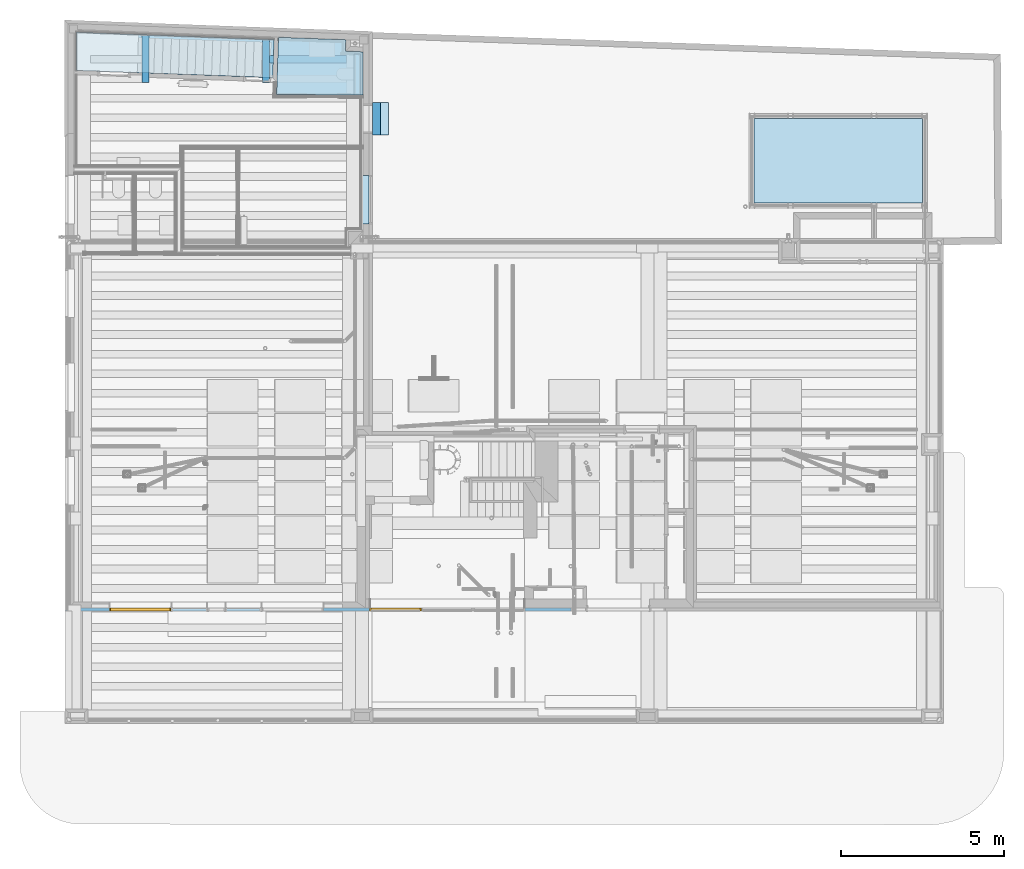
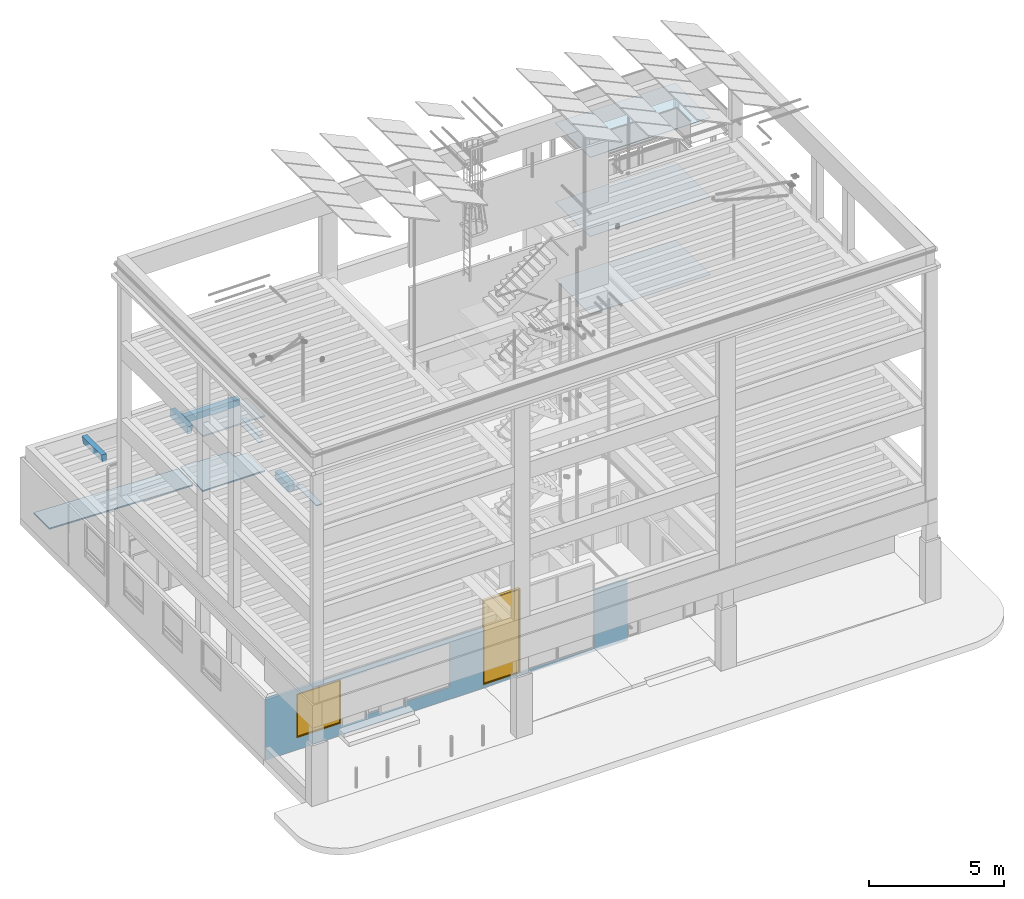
# One storey, part 21 of 106: 17 slabs, 2 windows, 2 openings, plus 2 elements that do not belong to this part.
"""IFC2X3 building model written with IfcOpenShell, lengths in metres."""

from ifc_helpers import new_model, entity, si_unit, converted_unit, derived_unit, money_unit, direction, frame, frame_2d, origin_with_axes, place, context, subcontext, project, spatial, polyline, rectangle, outline, extrude, faceted_brep, material, layer, layer_set, layer_usage, type_object, element, fill, save


model = new_model("IFC2X3")

# Units and contexts
model_context = context("Model", 3, precision=1e-05, world=origin_with_axes(), true_north=direction((0.0, 1.0)))
body_context = subcontext(model_context, "Body", "Model", "MODEL_VIEW", scale=1.0)
ifc_project = project(units=[si_unit("LENGTHUNIT", "METRE"), si_unit("AREAUNIT", "SQUARE_METRE"), si_unit("VOLUMEUNIT", "CUBIC_METRE"), si_unit("ABSORBEDDOSEUNIT", "GRAY"), si_unit("AMOUNTOFSUBSTANCEUNIT", "MOLE"), si_unit("DOSEEQUIVALENTUNIT", "SIEVERT"), si_unit("ELECTRICCAPACITANCEUNIT", "FARAD"), si_unit("ELECTRICCHARGEUNIT", "COULOMB"), si_unit("ELECTRICCONDUCTANCEUNIT", "SIEMENS"), si_unit("ELECTRICCURRENTUNIT", "AMPERE"), si_unit("ELECTRICRESISTANCEUNIT", "OHM"), si_unit("ELECTRICVOLTAGEUNIT", "VOLT"), si_unit("ENERGYUNIT", "JOULE"), si_unit("FORCEUNIT", "NEWTON"), si_unit("FREQUENCYUNIT", "HERTZ"), si_unit("ILLUMINANCEUNIT", "LUX"), si_unit("INDUCTANCEUNIT", "HENRY"), si_unit("LUMINOUSFLUXUNIT", "LUMEN"), si_unit("LUMINOUSINTENSITYUNIT", "CANDELA"), si_unit("MAGNETICFLUXDENSITYUNIT", "TESLA"), si_unit("MAGNETICFLUXUNIT", "WEBER"), si_unit("MASSUNIT", "GRAM"), converted_unit("PLANEANGLEUNIT", "degree", entity("IfcReal", 0.0174532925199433), si_unit("PLANEANGLEUNIT", "RADIAN"), dimensions=[0, 0, 0, 0, 0, 0, 0]), si_unit("POWERUNIT", "WATT"), si_unit("PRESSUREUNIT", "PASCAL"), si_unit("RADIOACTIVITYUNIT", "BECQUEREL"), si_unit("SOLIDANGLEUNIT", "STERADIAN"), si_unit("THERMODYNAMICTEMPERATUREUNIT", "KELVIN"), si_unit("TIMEUNIT", "SECOND"), derived_unit("ACCELERATIONUNIT", [(si_unit("LENGTHUNIT", "METRE"), 1), (si_unit("TIMEUNIT", "SECOND"), -2)]), derived_unit("ANGULARVELOCITYUNIT", [(converted_unit("PLANEANGLEUNIT", "degree", entity("IfcReal", 0.0174532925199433), si_unit("PLANEANGLEUNIT", "RADIAN"), dimensions=[0, 0, 0, 0, 0, 0, 0]), 1), (si_unit("TIMEUNIT", "SECOND"), -1)]), derived_unit("CURVATUREUNIT", [(converted_unit("PLANEANGLEUNIT", "degree", entity("IfcReal", 0.0174532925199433), si_unit("PLANEANGLEUNIT", "RADIAN"), dimensions=[0, 0, 0, 0, 0, 0, 0]), 1), (si_unit("LENGTHUNIT", "METRE"), -1)]), derived_unit("DYNAMICVISCOSITYUNIT", [(si_unit("PRESSUREUNIT", "PASCAL"), 1), (si_unit("TIMEUNIT", "SECOND"), 1)]), derived_unit("HEATFLUXDENSITYUNIT", [(si_unit("POWERUNIT", "WATT"), 1), (si_unit("LENGTHUNIT", "METRE"), -2)]), derived_unit("HEATINGVALUEUNIT", [(si_unit("ENERGYUNIT", "JOULE"), 1), (si_unit("MASSUNIT", "GRAM"), -1)]), derived_unit("INTEGERCOUNTRATEUNIT", [(si_unit("TIMEUNIT", "SECOND"), -1)]), derived_unit("IONCONCENTRATIONUNIT", [(si_unit("MASSUNIT", "GRAM"), 1), (si_unit("VOLUMEUNIT", "CUBIC_METRE"), -1)]), derived_unit("ISOTHERMALMOISTURECAPACITYUNIT", [(si_unit("VOLUMEUNIT", "CUBIC_METRE"), 1), (si_unit("MASSUNIT", "GRAM"), -1)]), derived_unit("KINEMATICVISCOSITYUNIT", [(si_unit("AREAUNIT", "SQUARE_METRE"), 1), (si_unit("TIMEUNIT", "SECOND"), -1)]), derived_unit("LINEARFORCEUNIT", [(si_unit("FORCEUNIT", "NEWTON"), 1), (si_unit("LENGTHUNIT", "METRE"), -1)]), derived_unit("LINEARMOMENTUNIT", [(si_unit("FORCEUNIT", "NEWTON"), 1), (si_unit("LENGTHUNIT", "METRE"), -1)]), derived_unit("LINEARSTIFFNESSUNIT", [(si_unit("FORCEUNIT", "NEWTON"), 1), (si_unit("LENGTHUNIT", "METRE"), -1)]), derived_unit("LINEARVELOCITYUNIT", [(si_unit("LENGTHUNIT", "METRE"), 1), (si_unit("TIMEUNIT", "SECOND"), -1)]), derived_unit("LUMINOUSINTENSITYDISTRIBUTIONUNIT", [(si_unit("LUMINOUSINTENSITYUNIT", "CANDELA"), 1), (si_unit("LUMINOUSFLUXUNIT", "LUMEN"), -1)]), derived_unit("MASSDENSITYUNIT", [(si_unit("MASSUNIT", "GRAM"), 1), (si_unit("VOLUMEUNIT", "CUBIC_METRE"), -1)]), derived_unit("MASSFLOWRATEUNIT", [(si_unit("MASSUNIT", "GRAM"), 1), (si_unit("TIMEUNIT", "SECOND"), -1)]), derived_unit("MASSPERLENGTHUNIT", [(si_unit("MASSUNIT", "GRAM"), 1), (si_unit("LENGTHUNIT", "METRE"), -1)]), derived_unit("MODULUSOFELASTICITYUNIT", [(si_unit("FORCEUNIT", "NEWTON"), 1), (si_unit("AREAUNIT", "SQUARE_METRE"), -1)]), derived_unit("MODULUSOFLINEARSUBGRADEREACTIONUNIT", [(si_unit("FORCEUNIT", "NEWTON"), 1), (si_unit("LENGTHUNIT", "METRE"), -2)]), derived_unit("MODULUSOFROTATIONALSUBGRADEREACTIONUNIT", [(si_unit("FORCEUNIT", "NEWTON"), 1), (si_unit("LENGTHUNIT", "METRE"), 1)]), derived_unit("MODULUSOFSUBGRADEREACTIONUNIT", [(si_unit("FORCEUNIT", "NEWTON"), 1), (si_unit("VOLUMEUNIT", "CUBIC_METRE"), -1)]), derived_unit("MOISTUREDIFFUSIVITYUNIT", [(si_unit("VOLUMEUNIT", "CUBIC_METRE"), 1), (si_unit("TIMEUNIT", "SECOND"), -1)]), derived_unit("MOLECULARWEIGHTUNIT", [(si_unit("MASSUNIT", "GRAM"), 1), (si_unit("AMOUNTOFSUBSTANCEUNIT", "MOLE"), -1)]), derived_unit("PLANARFORCEUNIT", [(si_unit("FORCEUNIT", "NEWTON"), 1), (si_unit("LENGTHUNIT", "METRE"), -2)]), derived_unit("ROTATIONALFREQUENCYUNIT", [(si_unit("TIMEUNIT", "SECOND"), -1)]), derived_unit("ROTATIONALMASSUNIT", [(si_unit("MASSUNIT", "GRAM"), 1), (si_unit("LENGTHUNIT", "METRE"), 2)]), derived_unit("ROTATIONALSTIFFNESSUNIT", [(si_unit("FORCEUNIT", "NEWTON"), 1), (si_unit("LENGTHUNIT", "METRE"), 1), (converted_unit("PLANEANGLEUNIT", "degree", entity("IfcReal", 0.0174532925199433), si_unit("PLANEANGLEUNIT", "RADIAN"), dimensions=[0, 0, 0, 0, 0, 0, 0]), -1)]), derived_unit("SECTIONAREAINTEGRALUNIT", [(si_unit("LENGTHUNIT", "METRE"), 5)]), derived_unit("SECTIONMODULUSUNIT", [(si_unit("LENGTHUNIT", "METRE"), 3)]), derived_unit("SHEARMODULUSUNIT", [(si_unit("FORCEUNIT", "NEWTON"), 1), (si_unit("AREAUNIT", "SQUARE_METRE"), -1)]), derived_unit("SOUNDPOWERUNIT", [(si_unit("ENERGYUNIT", "JOULE"), 1), (si_unit("TIMEUNIT", "SECOND"), -1)]), derived_unit("SPECIFICHEATCAPACITYUNIT", [(si_unit("FORCEUNIT", "NEWTON"), 1), (si_unit("MASSUNIT", "GRAM"), -1), (si_unit("THERMODYNAMICTEMPERATUREUNIT", "KELVIN"), -1)]), derived_unit("TEMPERATUREGRADIENTUNIT", [(si_unit("THERMODYNAMICTEMPERATUREUNIT", "KELVIN"), 1), (si_unit("LENGTHUNIT", "METRE"), -1)]), derived_unit("THERMALADMITTANCEUNIT", [(si_unit("POWERUNIT", "WATT"), 1), (si_unit("AREAUNIT", "SQUARE_METRE"), -1), (si_unit("THERMODYNAMICTEMPERATUREUNIT", "KELVIN"), -1)]), derived_unit("THERMALCONDUCTANCEUNIT", [(si_unit("POWERUNIT", "WATT"), 1), (si_unit("LENGTHUNIT", "METRE"), -1), (si_unit("THERMODYNAMICTEMPERATUREUNIT", "KELVIN"), -1)]), derived_unit("THERMALEXPANSIONCOEFFICIENTUNIT", [(si_unit("THERMODYNAMICTEMPERATUREUNIT", "KELVIN"), -1)]), derived_unit("THERMALRESISTANCEUNIT", [(si_unit("AREAUNIT", "SQUARE_METRE"), 1), (si_unit("POWERUNIT", "WATT"), -1)]), derived_unit("THERMALTRANSMITTANCEUNIT", [(si_unit("POWERUNIT", "WATT"), 1), (si_unit("AREAUNIT", "SQUARE_METRE"), -1), (si_unit("THERMODYNAMICTEMPERATUREUNIT", "KELVIN"), -1)]), derived_unit("TORQUEUNIT", [(si_unit("FORCEUNIT", "NEWTON"), 1), (si_unit("LENGTHUNIT", "METRE"), 1)]), derived_unit("VAPORPERMEABILITYUNIT", [(si_unit("MASSUNIT", "GRAM"), 1), (si_unit("TIMEUNIT", "SECOND"), -1)]), derived_unit("VOLUMETRICFLOWRATEUNIT", [(si_unit("VOLUMEUNIT", "CUBIC_METRE"), 1), (si_unit("TIMEUNIT", "SECOND"), -1)]), derived_unit("WARPINGCONSTANTUNIT", [(si_unit("LENGTHUNIT", "METRE"), 6)]), derived_unit("WARPINGMOMENTUNIT", [(si_unit("FORCEUNIT", "NEWTON"), 1), (si_unit("LENGTHUNIT", "METRE"), 2)]), money_unit("GBP")], contexts=[model_context])

# Site, building, storey
site_placement = place(None, origin_with_axes())
site = spatial("IfcSite", under=ifc_project, at=site_placement, Name="Site", CompositionType="ELEMENT")
building_placement = place(site_placement, origin_with_axes())
building = spatial("IfcBuilding", under=site, at=building_placement, Name="Building01", CompositionType="ELEMENT")
storey_placement = place(building_placement, origin_with_axes())
storey = spatial("IfcBuildingStorey", under=building, at=storey_placement, Name="GF", CompositionType="ELEMENT", Elevation=0.0)

# Slabs
ifc_material_1 = material(Name="A_BSUK_Slabs")
slab_type_1 = type_object("IfcSlabType", Name="A-FloorsSlabs A_BSUK_Slabs", PredefinedType="FLOOR")
placement = place(storey_placement, origin_with_axes())
element("IfcSlab", 1, at=placement, inside=storey, type_object=slab_type_1, material=ifc_material_1, Name="A-FloorsSlabs A_BSUK_Slabs", ObjectType="CompoundSlabLeaf", context=body_context, shape_type="Brep", body=[
    faceted_brep([(9.443418, 18.083912, -0.162), (9.443418, 18.083912, 0.198), (9.443418, 19.083912, 0.198), (9.443418, 19.083912, -0.162), (9.693418, 18.083912, -0.162), (9.693418, 18.083912, 0.198), (9.693418, 19.083912, -0.162), (9.693418, 19.083912, 0.198)], [[[0, 1, 2, 3]], [[4, 5, 1, 0]], [[6, 7, 5, 4]], [[3, 2, 7, 6]], [[1, 5, 7, 2]], [[3, 6, 4, 0]]]),
])
element("IfcSlab", 2, at=placement, inside=storey, type_object=slab_type_1, material=ifc_material_1, Name="A-FloorsSlabs A_BSUK_Slabs", ObjectType="CompoundSlabLeaf", context=body_context, shape_type="Brep", body=[
    faceted_brep([(9.693418, 18.083912, -0.162), (9.693418, 18.083912, 0.018), (9.693418, 19.083912, 0.018), (9.693418, 19.083912, -0.162), (9.943418, 18.083912, -0.162), (9.943418, 18.083912, 0.018), (9.943418, 19.083912, -0.162), (9.943418, 19.083912, 0.018)], [[[0, 1, 2, 3]], [[4, 5, 1, 0]], [[6, 7, 5, 4]], [[3, 2, 7, 6]], [[1, 5, 7, 2]], [[3, 6, 4, 0]]]),
])
ifc_material_2 = material(Name="A_BSUK_Ceramic_FloorTiles")
element("IfcSlab", 3, at=placement, inside=storey, type_object=slab_type_1, material=ifc_material_2, Name="A-FloorsSlabs A_BSUK_Slabs", ObjectType="CompoundSlabLeaf", context=body_context, shape_type="Brep", body=[
    faceted_brep([(6.556698, 21.082305, 0.178), (6.556698, 21.082305, 0.19), (8.628099, 21.00546, 0.19), (8.628099, 21.00546, 0.178), (6.497539, 19.325402, 0.178), (6.497539, 19.325402, 0.19), (9.154265, 19.307574, 0.178), (9.154265, 19.307574, 0.19), (9.154265, 20.635466, 0.178), (9.154265, 20.635466, 0.19), (8.611883, 20.65458, 0.178), (8.611883, 20.65458, 0.19)], [[[0, 1, 2, 3]], [[4, 5, 1, 0]], [[6, 7, 5, 4]], [[8, 9, 7, 6]], [[10, 11, 9, 8]], [[3, 2, 11, 10]], [[1, 5, 7, 9, 11, 2]], [[3, 10, 8, 6, 4, 0]]]),
])
ifc_material_3 = material(Name="A_BSUK_Ceramic_WallTiles")
element("IfcSlab", 4, at=placement, inside=storey, type_object=slab_type_1, material=ifc_material_3, Name="A-FloorsSlabs A_BSUK_Slabs", ObjectType="CompoundSlabLeaf", context=body_context, shape_type="Brep", body=[
    faceted_brep([(8.882265, 20.573007, 1.823), (8.882265, 20.573007, 1.848), (9.082265, 20.565959, 1.848), (9.082265, 20.565959, 1.823), (8.882265, 19.308916, 1.823), (8.882265, 19.308916, 1.848), (9.082265, 19.307574, 1.823), (9.082265, 19.307574, 1.848)], [[[0, 1, 2, 3]], [[4, 5, 1, 0]], [[6, 7, 5, 4]], [[3, 2, 7, 6]], [[1, 5, 7, 2]], [[3, 6, 4, 0]]]),
])
ifc_material_4 = material(Name="A_BSUK_Timber_Miscellaneous")
element("IfcSlab", 5, at=placement, inside=storey, type_object=slab_type_1, material=ifc_material_4, Name="A-FloorsSlabs A_BSUK_Slabs", ObjectType="CompoundSlabLeaf", context=body_context, shape_type="Brep", body=[
    faceted_brep([(9.067265, 16.844813, 0.998), (9.067265, 16.844813, 1.023), (9.334256, 16.844813, 1.023), (9.334256, 16.844813, 0.998), (9.067265, 15.344813, 0.998), (9.067265, 15.344813, 1.023), (9.334256, 15.344813, 0.998), (9.334256, 15.344813, 1.023)], [[[0, 1, 2, 3]], [[4, 5, 1, 0]], [[6, 7, 5, 4]], [[3, 2, 7, 6]], [[1, 5, 7, 2]], [[3, 6, 4, 0]]]),
])
ifc_material_5 = material(Name="A_BSUK_Parquet_Floor")
element("IfcSlab", 6, at=placement, inside=storey, type_object=slab_type_1, material=ifc_material_5, Name="A-FloorsSlabs A_BSUK_Slabs", ObjectType="CompoundSlabLeaf", context=body_context, shape_type="Brep", body=[
    faceted_brep([(0.352897, 21.240404, 0.178), (0.352897, 21.240404, 0.19), (6.422857, 21.015221, 0.19), (6.422857, 21.015221, 0.178), (0.352897, 20.061719, 0.178), (0.352897, 20.061719, 0.19), (6.383485, 19.838621, 0.178), (6.383485, 19.838621, 0.19)], [[[0, 1, 2, 3]], [[4, 5, 1, 0]], [[6, 7, 5, 4]], [[3, 2, 7, 6]], [[1, 5, 7, 2]], [[3, 6, 4, 0]]]),
])
ifc_material_6 = material(Name="A_BSUK_CeilingSoffitFinishes_Suspended")
element("IfcSlab", 7, at=placement, inside=storey, type_object=slab_type_1, material=ifc_material_6, Name="A-FloorsSlabs A_BSUK_Slabs", ObjectType="CompoundSlabLeaf", context=body_context, shape_type="Brep", body=[
    faceted_brep([(6.556698, 21.082305, 2.6125), (6.556698, 21.082305, 2.625), (8.628099, 21.00546, 2.625), (8.628099, 21.00546, 2.6125), (6.497539, 19.325402, 2.6125), (6.497539, 19.325402, 2.625), (9.154265, 19.307574, 2.6125), (9.154265, 19.307574, 2.625), (9.154265, 20.635466, 2.6125), (9.154265, 20.635466, 2.625), (8.611883, 20.65458, 2.6125), (8.611883, 20.65458, 2.625)], [[[0, 1, 2, 3]], [[4, 5, 1, 0]], [[6, 7, 5, 4]], [[8, 9, 7, 6]], [[10, 11, 9, 8]], [[3, 2, 11, 10]], [[1, 5, 7, 9, 11, 2]], [[3, 10, 8, 6, 4, 0]]]),
])
slab_8_placement = place(storey_placement, frame((2.584185, 12.413978, 3.015), z_axis=(0.0, 0.0, 1.0), x_axis=(0.0, 1.0, 0.0)))
element("IfcSlab", 8, at=slab_8_placement, inside=storey, type_object=slab_type_1, material=ifc_material_1, Name="A-FloorsSlabs A_BSUK_Slabs", ObjectType="A-FloorsSlabs A_BSUK_Slabs", context=body_context, shape_type="Brep", body=[
    faceted_brep([(7.276028, 0.0, -0.34), (8.721302, 0.0, -0.34), (8.721302, 0.0, 0.0), (7.276028, 0.0, 0.0), (7.276028, 0.171429, -0.34), (8.721302, 0.171429, -0.34), (7.276028, 0.22, 0.0), (8.721302, 0.22, 0.0)], [[[0, 1, 2, 3]], [[4, 5, 1, 0]], [[6, 7, 5, 4]], [[3, 2, 7, 6]], [[1, 5, 7, 2]], [[3, 6, 4, 0]]]),
])
slab_9_placement = place(storey_placement, frame((6.06243, 12.413978, 3.015), z_axis=(0.0, 0.0, 1.0), x_axis=(0.0, -1.0, 0.0)))
element("IfcSlab", 9, at=slab_9_placement, inside=storey, type_object=slab_type_1, material=ifc_material_1, Name="A-FloorsSlabs A_BSUK_Slabs", ObjectType="A-FloorsSlabs A_BSUK_Slabs", context=body_context, shape_type="Brep", body=[
    faceted_brep([(-7.276028, 0.0, 0.0), (-8.582546, 0.0, 0.0), (-8.582546, 0.0, -0.34), (-7.276028, 0.0, -0.34), (-8.582546, 0.171429, -0.34), (-7.276028, 0.171429, -0.34), (-8.582546, 0.22, 0.0), (-7.276028, 0.22, 0.0)], [[[0, 1, 2, 3]], [[3, 2, 4, 5]], [[5, 4, 6, 7]], [[7, 6, 1, 0]], [[1, 6, 4, 2]], [[3, 5, 7, 0]]]),
])
slab_10_placement = place(storey_placement, frame((1.217261, 20.290006, 3.015), z_axis=(0.0, 0.0, 1.0), x_axis=(1.0, 0.0, 0.0)))
element("IfcSlab", 10, at=slab_10_placement, inside=storey, type_object=slab_type_1, material=ifc_material_1, Name="A-FloorsSlabs A_BSUK_Slabs", ObjectType="A-FloorsSlabs A_BSUK_Slabs", context=body_context, shape_type="Brep", body=[
    faceted_brep([(5.016598, 0.048571, -0.34), (7.435777, 0.048571, -0.34), (7.435777, 0.0, 0.0), (5.016598, 0.0, 0.0), (5.016598, 0.191429, -0.34), (7.435777, 0.191429, -0.34), (5.016598, 0.24, 0.0), (7.435777, 0.24, 0.0)], [[[0, 1, 2, 3]], [[4, 5, 1, 0]], [[6, 7, 5, 4]], [[3, 2, 7, 6]], [[1, 5, 7, 2]], [[3, 6, 4, 0]]]),
])
ifc_material_7 = material(Name="A_BSUK_StainlessSteelRailingSystems")
element("IfcSlab", 11, at=placement, inside=storey, type_object=slab_type_1, material=ifc_material_7, Name="A-FloorsSlabs A_BSUK_Slabs", ObjectType="CompoundSlabLeaf", context=body_context, shape_type="Brep", body=[
    faceted_brep([(21.168834, 18.584781, 8.567442), (21.168834, 18.584781, 8.587442), (26.332635, 18.584781, 8.587442), (26.332635, 18.584781, 8.567442), (21.168834, 15.994581, 8.567442), (21.168834, 15.994581, 8.587442), (26.332635, 15.994581, 8.567442), (26.332635, 15.994581, 8.587442)], [[[0, 1, 2, 3]], [[4, 5, 1, 0]], [[6, 7, 5, 4]], [[3, 2, 7, 6]], [[1, 5, 7, 2]], [[3, 6, 4, 0]]]),
])
element("IfcSlab", 12, at=placement, inside=storey, type_object=slab_type_1, material=ifc_material_7, Name="A-FloorsSlabs A_BSUK_Slabs", ObjectType="CompoundSlabLeaf", context=body_context, shape_type="Brep", body=[
    faceted_brep([(21.168834, 18.584781, 12.151013), (21.168834, 18.584781, 12.171013), (26.332635, 18.584781, 12.171013), (26.332635, 18.584781, 12.151013), (21.168834, 15.994581, 12.151013), (21.168834, 15.994581, 12.171013), (26.332635, 15.994581, 12.151013), (26.332635, 15.994581, 12.171013)], [[[0, 1, 2, 3]], [[4, 5, 1, 0]], [[6, 7, 5, 4]], [[3, 2, 7, 6]], [[1, 5, 7, 2]], [[3, 6, 4, 0]]]),
])
element("IfcSlab", 13, at=placement, inside=storey, type_object=slab_type_1, material=ifc_material_7, Name="A-FloorsSlabs A_BSUK_Slabs", ObjectType="CompoundSlabLeaf", context=body_context, shape_type="Brep", body=[
    faceted_brep([(21.168834, 18.584781, 5.044467), (21.168834, 18.584781, 5.064467), (26.332635, 18.584781, 5.064467), (26.332635, 18.584781, 5.044467), (21.168834, 15.994581, 5.044467), (21.168834, 15.994581, 5.064467), (26.332635, 15.994581, 5.044467), (26.332635, 15.994581, 5.064467)], [[[0, 1, 2, 3]], [[4, 5, 1, 0]], [[6, 7, 5, 4]], [[3, 2, 7, 6]], [[1, 5, 7, 2]], [[3, 6, 4, 0]]]),
])
slab_type_2 = type_object("IfcSlabType", Name="A-Finishes A_BSUK_Ceramic_FloorTiles", PredefinedType="FLOOR")
element("IfcSlab", 14, at=placement, inside=storey, type_object=slab_type_2, material=ifc_material_2, Name="A-Finishes A_BSUK_Ceramic_FloorTiles", ObjectType="CompoundSlabLeaf", context=body_context, shape_type="Brep", body=[
    faceted_brep([(8.882265, 20.573007, 1.523), (8.882265, 20.573007, 1.548), (9.082265, 20.565959, 1.548), (9.082265, 20.565959, 1.523), (8.882265, 19.308916, 1.523), (8.882265, 19.308916, 1.548), (9.082265, 19.307574, 1.523), (9.082265, 19.307574, 1.548)], [[[0, 1, 2, 3]], [[4, 5, 1, 0]], [[6, 7, 5, 4]], [[3, 2, 7, 6]], [[1, 5, 7, 2]], [[3, 6, 4, 0]]]),
])
ifc_material_8 = material(Name="A_BSUK_ExpandedPolystyreneBoards")
slab_type_3 = type_object("IfcSlabType", Name="A-FloorsSlabs A_BSUK_ExpandedPolystyreneBoards", PredefinedType="FLOOR")
element("IfcSlab", 15, at=placement, inside=storey, type_object=slab_type_3, material=ifc_material_8, Name="A-FloorsSlabs A_BSUK_ExpandedPolystyreneBoards", ObjectType="CompoundSlabLeaf", context=body_context, shape_type="Brep", body=[
    faceted_brep([(6.556698, 21.082305, 0.128), (6.556698, 21.082305, 0.178), (8.628099, 21.00546, 0.178), (8.628099, 21.00546, 0.128), (6.497539, 19.325402, 0.128), (6.497539, 19.325402, 0.178), (9.154265, 19.307574, 0.128), (9.154265, 19.307574, 0.178), (9.154265, 20.635466, 0.128), (9.154265, 20.635466, 0.178), (8.611883, 20.65458, 0.128), (8.611883, 20.65458, 0.178)], [[[0, 1, 2, 3]], [[4, 5, 1, 0]], [[6, 7, 5, 4]], [[8, 9, 7, 6]], [[10, 11, 9, 8]], [[3, 2, 11, 10]], [[1, 5, 7, 9, 11, 2]], [[3, 10, 8, 6, 4, 0]]]),
])
element("IfcSlab", 16, at=placement, inside=storey, type_object=slab_type_3, material=ifc_material_8, Name="A-FloorsSlabs A_BSUK_ExpandedPolystyreneBoards", ObjectType="CompoundSlabLeaf", context=body_context, shape_type="Brep", body=[
    faceted_brep([(0.352897, 21.240404, 0.128), (0.352897, 21.240404, 0.178), (6.422857, 21.015221, 0.178), (6.422857, 21.015221, 0.128), (0.352897, 20.061719, 0.128), (0.352897, 20.061719, 0.178), (6.383485, 19.838621, 0.128), (6.383485, 19.838621, 0.178)], [[[0, 1, 2, 3]], [[4, 5, 1, 0]], [[6, 7, 5, 4]], [[3, 2, 7, 6]], [[1, 5, 7, 2]], [[3, 6, 4, 0]]]),
])
element("IfcSlab", 17, at=placement, inside=storey, type_object=slab_type_3, material=ifc_material_8, Name="A-FloorsSlabs A_BSUK_ExpandedPolystyreneBoards", ObjectType="CompoundSlabLeaf", context=body_context, shape_type="Brep", body=[
    faceted_brep([(6.556698, 21.082305, 2.625), (6.556698, 21.082305, 2.675), (8.628099, 21.00546, 2.675), (8.628099, 21.00546, 2.625), (6.497539, 19.325402, 2.625), (6.497539, 19.325402, 2.675), (9.154265, 19.307574, 2.625), (9.154265, 19.307574, 2.675), (9.154265, 20.635466, 2.625), (9.154265, 20.635466, 2.675), (8.611883, 20.65458, 2.625), (8.611883, 20.65458, 2.675)], [[[0, 1, 2, 3]], [[4, 5, 1, 0]], [[6, 7, 5, 4]], [[8, 9, 7, 6]], [[10, 11, 9, 8]], [[3, 2, 11, 10]], [[1, 5, 7, 9, 11, 2]], [[3, 10, 8, 6, 4, 0]]]),
])

# Wall, opening
ifc_material_9 = material(Name="A_BSUK_WallsExternal_Brick")
ifc_layer = layer(ifc_material_9, 0.1, ventilated=False)
ifc_layer_set = layer_set([ifc_layer])
ifc_layer_usage = layer_usage(ifc_layer_set, "AXIS2", "POSITIVE", 0.0)
wall_type = type_object("IfcWallType", Name="A-Walls-ExternalBrick", PredefinedType="NOTDEFINED")
wall_1_placement = place(storey_placement, frame((0.00013, 3.459516, -0.145), z_axis=(0.0, 0.0, 1.0), x_axis=(1.0, -3.756e-05, 0.0)))
wall_1 = element("IfcWallStandardCase", 18, at=wall_1_placement, inside=storey, type_object=wall_type, material=ifc_layer_usage, Name="A-Walls-ExternalBrick", ObjectType="A-Walls-ExternalBrick", context=body_context, shape_type="SweptSolid", body=[
    extrude(outline(polyline([(9.353966, 0.1), (0.1, 0.1), (0.0, 0.0), (9.353966, 0.0), (9.353966, 0.1)])), origin_with_axes(), (0.0, 0.0, 1.0), 2.745),
])
opening_1_placement = place(wall_1_placement, frame((1.361548, 0.0, 0.343), z_axis=(0.0, 0.0, 1.0), x_axis=(1.0, 0.0, 0.0)))
opening_1 = element("IfcOpeningElement", 19, at=opening_1_placement, cuts=wall_1, Name="Opening", ObjectType="Opening", context=body_context, shape_type="Brep", body=[
    faceted_brep([(3.55, 0.1, 0.2), (3.03, 0.1, 0.2), (3.03, 0.1, 0.0), (1.896, 0.1, 0.0), (1.896, 0.1, 0.2), (0.0, 0.1, 0.2), (0.0, 0.1, 2.2), (1.9, 0.1, 2.2), (1.9, 0.1, 2.172), (3.015, 0.1, 2.172), (3.015, 0.1, 2.2), (3.565, 0.1, 2.2), (3.565, 0.1, 2.172), (4.68, 0.1, 2.172), (4.68, 0.1, 2.2), (6.58, 0.1, 2.2), (6.58, 0.1, 0.2), (4.684, 0.1, 0.2), (4.684, 0.1, 0.0), (3.55, 0.1, 0.0), (1.896004, 0.0, 0.0), (1.896004, 0.0, 0.2), (1.900004, 0.0, 2.172), (3.015004, 0.0, 2.172), (3.030004, 0.0, 0.2), (3.030004, 0.0, 0.0), (3.550004, 0.0, 0.2), (3.550004, 0.0, 0.0), (4.684004, 0.0, 0.0), (4.684004, 0.0, 0.2), (6.580004, 0.0, 0.2), (6.580004, 0.0, 2.2), (4.680004, 0.0, 2.2), (4.680004, 0.0, 2.172), (3.565004, 0.0, 2.172), (3.565004, 0.0, 2.2), (3.015004, 0.0, 2.2), (1.900004, 0.0, 2.2), (4e-06, 0.0, 2.2), (4e-06, 0.0, 0.2)], [[[0, 1, 2, 3, 4, 5, 6, 7, 8, 9, 10, 11, 12, 13, 14, 15, 16, 17, 18, 19]], [[4, 3, 20, 21]], [[9, 8, 22, 23]], [[24, 25, 2, 1]], [[20, 3, 2, 25]], [[26, 27, 28, 29, 30, 31, 32, 33, 34, 35, 36, 23, 22, 37, 38, 39, 21, 20, 25, 24]], [[4, 21, 39, 5]], [[38, 6, 5, 39]], [[37, 7, 6, 38]], [[22, 8, 7, 37]], [[26, 24, 1, 0]], [[9, 23, 36, 10]], [[35, 11, 10, 36]], [[12, 11, 35, 34]], [[27, 19, 18, 28]], [[26, 0, 19, 27]], [[12, 34, 33, 13]], [[29, 28, 18, 17]], [[29, 17, 16, 30]], [[13, 33, 32, 14]], [[31, 15, 14, 32]], [[30, 16, 15, 31]]]),
])

# Space
space_placement = place(storey_placement, frame((0.665095, 0.0, 0.0), z_axis=(0.0, 0.0, 1.0), x_axis=(1.0, -4.064e-05, 0.0)))
space = spatial("IfcSpace", under=storey, at=space_placement, Name="UNDERCROFT (front)", CompositionType="ELEMENT", InteriorOrExteriorSpace="NOTDEFINED")

# Window
ifc_material_10 = material(Name="A_BSUK_Window_Frames")
window_style = type_object("IfcWindowStyle", Name="A-Fixed", ConstructionType="NOTDEFINED", OperationType="USERDEFINED", ParameterTakesPrecedence=False, Sizeable=False)
window_1_placement = place(opening_1_placement, frame((1.900004, -0.001003, 0.2), z_axis=(0.0, 0.0, 1.0), x_axis=(1.0, 3.756e-05, 0.0)))
window_1 = element("IfcWindow", 20, at=window_1_placement, inside=space, type_object=window_style, material=ifc_material_10, Name="0.02", ObjectType="A-Fixed", OverallHeight=2.00000000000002, OverallWidth=1.90000000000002, context=body_context, shape_type="Brep", body=[
    faceted_brep([(-0.042, 0.0, 0.042), (-0.042, 0.0, 1.958), (-0.042, 0.1, 1.958), (-0.042, 0.1, 0.042), (0.0, 0.1, 2.0), (-1.9, 0.1, 2.0), (-1.9, 0.0, 2.0), (0.0, 0.0, 2.0), (0.0, 0.1, 0.0), (0.0, 0.0, 0.0), (-1.9, 0.1, 0.0), (-1.9, 0.0, 0.0), (-1.858, 0.1, 1.958), (-1.858, 0.1, 0.042), (-1.858, 0.0, 0.042), (-1.858, 0.0, 1.958)], [[[0, 1, 2, 3]], [[4, 5, 6, 7]], [[8, 4, 7, 9]], [[10, 8, 9, 11]], [[5, 10, 11, 6]], [[5, 4, 8, 10], [3, 2, 12, 13]], [[14, 0, 3, 13]], [[15, 14, 13, 12]], [[1, 15, 12, 2]], [[9, 7, 6, 11], [15, 1, 0, 14]]]),
    faceted_brep([(-0.042, 0.053175, 1.958), (-0.042, 0.046825, 1.958), (-0.042, 0.046825, 0.042), (-0.042, 0.053175, 0.042), (-1.858, 0.053175, 0.042), (-1.858, 0.046825, 0.042), (-1.858, 0.046825, 1.958), (-1.858, 0.053175, 1.958)], [[[0, 1, 2, 3]], [[4, 5, 6, 7]], [[3, 2, 5, 4]], [[3, 4, 7, 0]], [[7, 6, 1, 0]], [[1, 6, 5, 2]]]),
])

fill(opening_1, window_1)

# Wall, opening, window
wall_2_placement = place(storey_placement, frame((9.354092, 3.458823, -0.145), z_axis=(0.0, 0.0, 1.0), x_axis=(1.0, -3.756e-05, 0.0)))
wall_2 = element("IfcWallStandardCase", 21, at=wall_2_placement, inside=storey, type_object=wall_type, material=ifc_layer_usage, Name="A-Walls-ExternalBrick", ObjectType="A-Walls-ExternalBrick", context=body_context, shape_type="SweptSolid", body=[
    extrude(rectangle(XDim=6.191074, YDim=0.1, at=frame_2d((3.095537, 0.05), x_axis=(-1.0, 0.0))), origin_with_axes(), (0.0, 0.0, 1.0), 2.745),
])
opening_2_placement = place(wall_2_placement, frame((4e-06, 0.0, 0.145), z_axis=(0.0, 0.0, 1.0), x_axis=(1.0, 0.0, 0.0)))
opening_2 = element("IfcOpeningElement", 22, at=opening_2_placement, cuts=wall_2, Name="Opening", ObjectType="Opening", context=body_context, shape_type="Brep", body=[
    faceted_brep([(0.0, 0.1, 2.6), (4e-06, 0.0, 2.6), (4.770004, 0.0, 2.6), (4.77, 0.1, 2.6), (4e-06, 0.0, 0.0), (4.770004, 0.0, 0.0), (0.0, 0.1, 0.0), (4.77, 0.1, 0.0)], [[[0, 1, 2, 3]], [[1, 4, 5, 2]], [[6, 0, 3, 7]], [[0, 6, 4, 1]], [[4, 6, 7, 5]], [[2, 5, 7, 3]]]),
])
window_2_placement = place(opening_2_placement, frame((1.590004, -0.000372, 0.0), z_axis=(0.0, 0.0, 1.0), x_axis=(1.0, 3.756e-05, 0.0)))
window_2 = element("IfcWindow", 23, at=window_2_placement, inside=space, type_object=window_style, material=ifc_material_10, Name="0.06", ObjectType="A-Fixed", OverallHeight=3.83000000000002, OverallWidth=1.59000000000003, context=body_context, shape_type="Brep", body=[
    faceted_brep([(-0.042, 0.0, 0.042), (-0.042, 0.0, 3.788), (-0.042, 0.1, 3.788), (-0.042, 0.1, 0.042), (0.0, 0.1, 3.83), (-1.59, 0.1, 3.83), (-1.59, 0.0, 3.83), (0.0, 0.0, 3.83), (0.0, 0.1, 0.0), (0.0, 0.0, 0.0), (-1.59, 0.1, 0.0), (-1.59, 0.0, 0.0), (-1.548, 0.1, 3.788), (-1.548, 0.1, 0.042), (-1.548, 0.0, 0.042), (-1.548, 0.0, 3.788)], [[[0, 1, 2, 3]], [[4, 5, 6, 7]], [[8, 4, 7, 9]], [[10, 8, 9, 11]], [[5, 10, 11, 6]], [[5, 4, 8, 10], [3, 2, 12, 13]], [[14, 0, 3, 13]], [[15, 14, 13, 12]], [[1, 15, 12, 2]], [[9, 7, 6, 11], [15, 1, 0, 14]]]),
    faceted_brep([(-0.042, 0.053175, 3.788), (-0.042, 0.046825, 3.788), (-0.042, 0.046825, 0.042), (-0.042, 0.053175, 0.042), (-1.548, 0.053175, 0.042), (-1.548, 0.046825, 0.042), (-1.548, 0.046825, 3.788), (-1.548, 0.053175, 3.788)], [[[0, 1, 2, 3]], [[4, 5, 6, 7]], [[3, 2, 5, 4]], [[3, 4, 7, 0]], [[7, 6, 1, 0]], [[1, 6, 5, 2]]]),
])
fill(opening_2, window_2)

save(model, "model.ifc")
